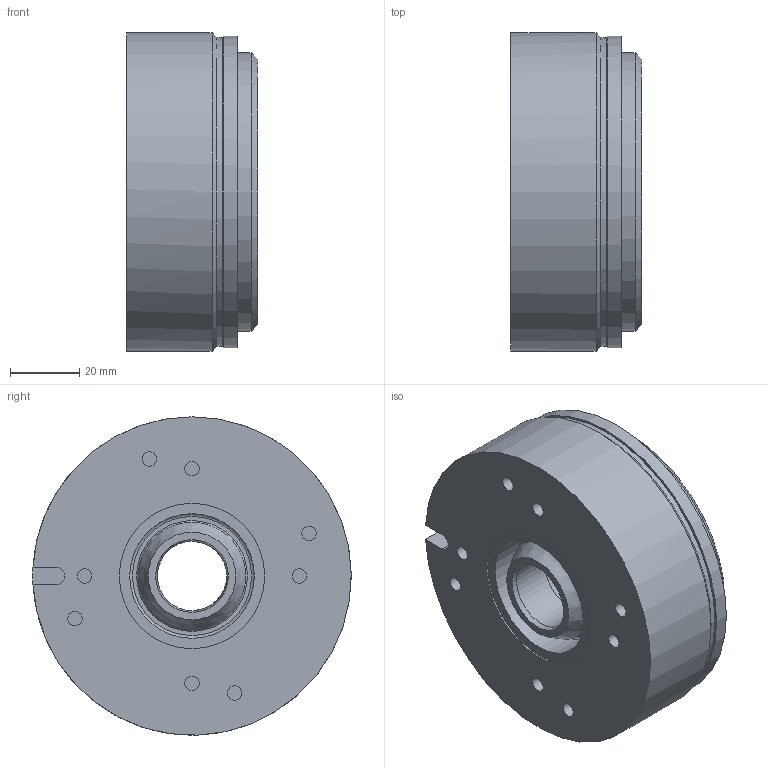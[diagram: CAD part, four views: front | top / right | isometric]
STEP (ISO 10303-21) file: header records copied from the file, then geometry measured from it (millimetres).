
FILE_DESCRIPTION (( 'STEP AP214' ), '1' );
FILE_NAME ('86 61109P00-0003_Index l.STEP', '2019-12-12T10:29:33', ( '' ), ( '' ), 'SwSTEP 2.0', 'SolidWorks 2018', '' );
FILE_SCHEMA (( 'AUTOMOTIVE_DESIGN' ));
Length unit declared in the file: millimetre
Products named in the file (1): 86 61109P00-0003_Index l
Bounding box: 38.1 x 92 x 92 mm (x, y, z)
Volume: 217688.5 mm3; surface area: 43067.4 mm2
Topology: 2 solids, 2 shells, 64 faces, 116 edges, 74 vertices
Faces by surface type: cylinder 27, plane 25, cone 10, torus 2
Full cylindrical faces by diameter (mm): 4.2 x8, 5 x3, 20 x1, 20.2 x1, 30.5 x1, 31 x1, 32 x1, 36 x1, 39 x1, 40.6 x1, 41.9 x1, 42 x1, 75.8 x1, 80.5 x1, 89.2 x1, 90 x1, 92 x1
Entity records: 2048 total; most frequent: CARTESIAN_POINT 740, DIRECTION 252, ORIENTED_EDGE 148, EDGE_LOOP 130, AXIS2_PLACEMENT_3D 122, FACE_OUTER_BOUND 92, EDGE_CURVE 74, VERTEX_POINT 70
